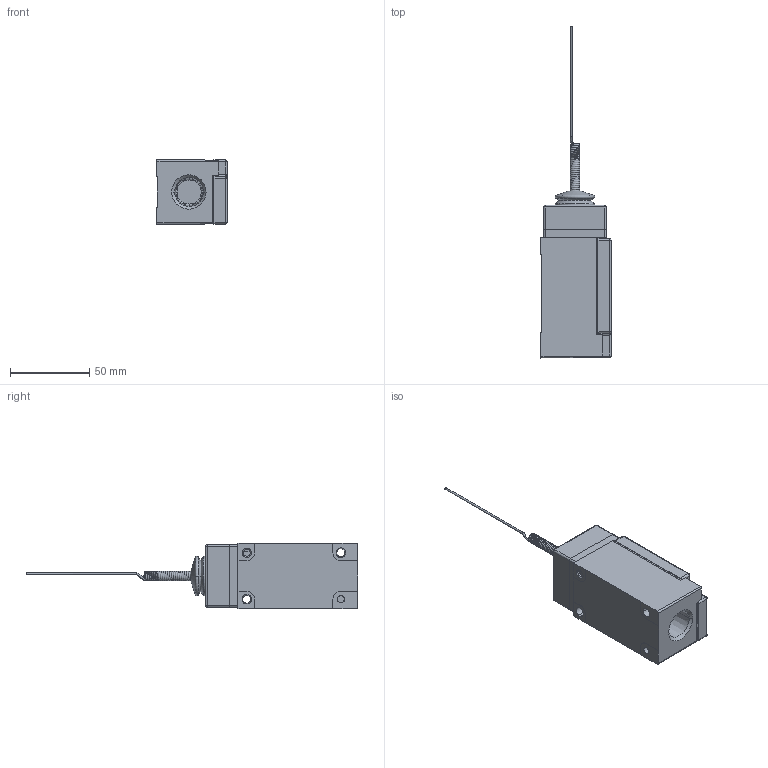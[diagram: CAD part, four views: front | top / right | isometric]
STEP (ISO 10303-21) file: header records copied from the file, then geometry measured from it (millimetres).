
FILE_DESCRIPTION((''),'2;1');
FILE_NAME('LSK3K-8A','2012-12-06T',('E522935'),(''),'PRO/ENGINEER BY PARAMETRIC TECHNOLOGY CORPORATION, 2009460','PRO/ENGINEER BY PARAMETRIC TECHNOLOGY CORPORATION, 2009460','');
FILE_SCHEMA(('CONFIG_CONTROL_DESIGN'));
Length unit declared in the file: inch
Products named in the file (1): LSK3K-8A
Bounding box: 44.32 x 210.03 x 41.15 mm (x, y, z)
Volume: 162273.1 mm3; surface area: 28926.1 mm2
Topology: 2 solids, 2 shells, 470 faces, 1158 edges, 708 vertices
Faces by surface type: plane 237, cylinder 153, cone 37, sphere 22, bspline 13, torus 8
Entity records: 26182 total; most frequent: CARTESIAN_POINT 15120, ORIENTED_EDGE 2316, DIRECTION 2295, EDGE_CURVE 1158, AXIS2_PLACEMENT_3D 838, VERTEX_POINT 708, VECTOR 619, LINE 619
